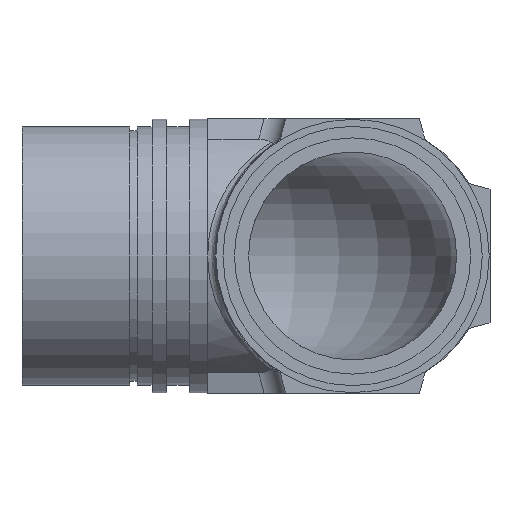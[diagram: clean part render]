
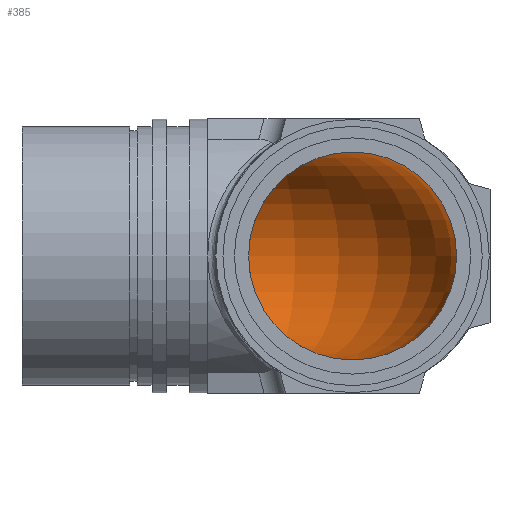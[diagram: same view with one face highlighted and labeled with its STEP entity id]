
A CAD part, left-side view. The second image highlights one B-rep face of the part: STEP entity #385.
In plain terms, the highlighted toroidal (fillet/blend) face has major radius 14 mm and minor radius 14 mm.
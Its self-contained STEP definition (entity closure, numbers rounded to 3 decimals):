
#15 = VERTEX_POINT ( 'NONE', #636 ) ;
#18 = VERTEX_POINT ( 'NONE', #673 ) ;
#25 = EDGE_CURVE ( 'NONE', #18, #44, #639, .T. ) ;
#43 = EDGE_CURVE ( 'NONE', #15, #18, #656, .T. ) ;
#44 = VERTEX_POINT ( 'NONE', #679 ) ;
#53 = VERTEX_POINT ( 'NONE', #674 ) ;
#69 = EDGE_CURVE ( 'NONE', #53, #15, #2044, .T. ) ;
#385 = ADVANCED_FACE ( 'NONE', ( #1397 ), #1393, .F. ) ;
#483 = VERTEX_POINT ( 'NONE', #1514 ) ;
#504 = ORIENTED_EDGE ( 'NONE', *, *, #43, .F. ) ;
#558 = EDGE_CURVE ( 'NONE', #578, #44, #1644, .T. ) ;
#572 = EDGE_CURVE ( 'NONE', #483, #578, #1694, .T. ) ;
#573 = ORIENTED_EDGE ( 'NONE', *, *, #572, .T. ) ;
#576 = ORIENTED_EDGE ( 'NONE', *, *, #69, .F. ) ;
#578 = VERTEX_POINT ( 'NONE', #1692 ) ;
#579 = EDGE_CURVE ( 'NONE', #53, #483, #1696, .T. ) ;
#604 = ORIENTED_EDGE ( 'NONE', *, *, #579, .T. ) ;
#618 = EDGE_LOOP ( 'NONE', ( #621, #504, #576, #604, #573, #619 ) ) ;
#619 = ORIENTED_EDGE ( 'NONE', *, *, #558, .T. ) ;
#621 = ORIENTED_EDGE ( 'NONE', *, *, #25, .F. ) ;
#630 = DIRECTION ( 'NONE',  ( 1., 0., 0. ) ) ;
#631 = CARTESIAN_POINT ( 'NONE',  ( -11.307, 4.641, 0. ) ) ;
#632 = AXIS2_PLACEMENT_3D ( 'NONE', #631, #630, #676 ) ;
#634 = CARTESIAN_POINT ( 'NONE',  ( -0.631, 6.672, -13.853 ) ) ;
#635 = CARTESIAN_POINT ( 'NONE',  ( -1.565, 6.332, -13.899 ) ) ;
#636 = CARTESIAN_POINT ( 'NONE',  ( -11.307, 4.641, 14. ) ) ;
#639 = B_SPLINE_CURVE_WITH_KNOTS ( 'NONE', 3,
 ( #667, #644, #643, #642, #648, #647, #646, #709, #708, #707, #635, #634, #654, #653 ),
 .UNSPECIFIED., .F., .F.,
 ( 4, 2, 2, 2, 2, 2, 4 ),
 ( 0., 0.001, 0.003, 0.006, 0.009, 0.01, 0.012 ),
 .UNSPECIFIED. ) ;
#642 = CARTESIAN_POINT ( 'NONE',  ( -9.314, 4.707, -14. ) ) ;
#643 = CARTESIAN_POINT ( 'NONE',  ( -10.31, 4.654, -14. ) ) ;
#644 = CARTESIAN_POINT ( 'NONE',  ( -10.808, 4.642, -14. ) ) ;
#646 = CARTESIAN_POINT ( 'NONE',  ( -6.346, 5.063, -13.995 ) ) ;
#647 = CARTESIAN_POINT ( 'NONE',  ( -7.33, 4.905, -13.998 ) ) ;
#648 = CARTESIAN_POINT ( 'NONE',  ( -8.817, 4.747, -14. ) ) ;
#653 = CARTESIAN_POINT ( 'NONE',  ( 0.291, 7.043, -13.792 ) ) ;
#654 = CARTESIAN_POINT ( 'NONE',  ( -0.167, 6.853, -13.825 ) ) ;
#656 = CIRCLE ( 'NONE', #632, 14. ) ;
#667 = CARTESIAN_POINT ( 'NONE',  ( -11.307, 4.641, -14. ) ) ;
#673 = CARTESIAN_POINT ( 'NONE',  ( -11.307, 4.641, -14. ) ) ;
#674 = CARTESIAN_POINT ( 'NONE',  ( 0.291, 7.043, 13.792 ) ) ;
#676 = DIRECTION ( 'NONE',  ( 0., 0., -1. ) ) ;
#679 = CARTESIAN_POINT ( 'NONE',  ( 0.291, 7.043, -13.792 ) ) ;
#707 = CARTESIAN_POINT ( 'NONE',  ( -2.034, 6.172, -13.917 ) ) ;
#708 = CARTESIAN_POINT ( 'NONE',  ( -3.451, 5.727, -13.961 ) ) ;
#709 = CARTESIAN_POINT ( 'NONE',  ( -4.408, 5.474, -13.977 ) ) ;
#1393 = TOROIDAL_SURFACE ( 'NONE', #1412, 14., 14. ) ;
#1397 = FACE_OUTER_BOUND ( 'NONE', #618, .T. ) ;
#1398 = CARTESIAN_POINT ( 'NONE',  ( -11.307, 18.641, 0. ) ) ;
#1412 = AXIS2_PLACEMENT_3D ( 'NONE', #1398, #1493, #1492 ) ;
#1492 = DIRECTION ( 'NONE',  ( -1., 0., 0. ) ) ;
#1493 = DIRECTION ( 'NONE',  ( 0., 0., -1. ) ) ;
#1514 = CARTESIAN_POINT ( 'NONE',  ( 2.693, 18.641, 14. ) ) ;
#1603 = CARTESIAN_POINT ( 'NONE',  ( 0.48, 7.5, -13.825 ) ) ;
#1604 = CARTESIAN_POINT ( 'NONE',  ( 0.661, 7.965, -13.853 ) ) ;
#1605 = CARTESIAN_POINT ( 'NONE',  ( 1.002, 8.898, -13.899 ) ) ;
#1606 = CARTESIAN_POINT ( 'NONE',  ( 1.161, 9.367, -13.917 ) ) ;
#1607 = CARTESIAN_POINT ( 'NONE',  ( 1.607, 10.785, -13.961 ) ) ;
#1620 = CARTESIAN_POINT ( 'NONE',  ( 1.86, 11.741, -13.977 ) ) ;
#1621 = CARTESIAN_POINT ( 'NONE',  ( 2.27, 13.679, -13.995 ) ) ;
#1622 = CARTESIAN_POINT ( 'NONE',  ( 2.428, 14.663, -13.998 ) ) ;
#1623 = CARTESIAN_POINT ( 'NONE',  ( 2.586, 16.15, -14. ) ) ;
#1624 = CARTESIAN_POINT ( 'NONE',  ( 2.626, 16.647, -14. ) ) ;
#1640 = CARTESIAN_POINT ( 'NONE',  ( 2.679, 17.643, -14. ) ) ;
#1641 = CARTESIAN_POINT ( 'NONE',  ( 2.691, 18.142, -14. ) ) ;
#1642 = CARTESIAN_POINT ( 'NONE',  ( 2.693, 18.641, -14. ) ) ;
#1644 = B_SPLINE_CURVE_WITH_KNOTS ( 'NONE', 3,
 ( #1642, #1641, #1640, #1624, #1623, #1622, #1621, #1620, #1607, #1606, #1605, #1604, #1603, #1652 ),
 .UNSPECIFIED., .F., .F.,
 ( 4, 2, 2, 2, 2, 2, 4 ),
 ( 0., 0.001, 0.003, 0.006, 0.009, 0.01, 0.012 ),
 .UNSPECIFIED. ) ;
#1652 = CARTESIAN_POINT ( 'NONE',  ( 0.291, 7.043, -13.792 ) ) ;
#1691 = CARTESIAN_POINT ( 'NONE',  ( 2.693, 18.641, 0. ) ) ;
#1692 = CARTESIAN_POINT ( 'NONE',  ( 2.693, 18.641, -14. ) ) ;
#1693 = AXIS2_PLACEMENT_3D ( 'NONE', #1691, #1768, #1767 ) ;
#1694 = CIRCLE ( 'NONE', #1693, 14. ) ;
#1695 = CARTESIAN_POINT ( 'NONE',  ( 0.291, 7.043, 13.792 ) ) ;
#1696 = B_SPLINE_CURVE_WITH_KNOTS ( 'NONE', 3,
 ( #1695, #1754, #1707, #1706, #1705, #1704, #1703, #1702, #1701, #1773, #1772, #1771 ),
 .UNSPECIFIED., .F., .F.,
 ( 4, 2, 2, 2, 2, 4 ),
 ( 0.066, 0.069, 0.072, 0.075, 0.076, 0.078 ),
 .UNSPECIFIED. ) ;
#1701 = CARTESIAN_POINT ( 'NONE',  ( 2.627, 16.653, 14. ) ) ;
#1702 = CARTESIAN_POINT ( 'NONE',  ( 2.587, 16.157, 14. ) ) ;
#1703 = CARTESIAN_POINT ( 'NONE',  ( 2.429, 14.673, 13.998 ) ) ;
#1704 = CARTESIAN_POINT ( 'NONE',  ( 2.272, 13.69, 13.995 ) ) ;
#1705 = CARTESIAN_POINT ( 'NONE',  ( 1.861, 11.746, 13.977 ) ) ;
#1706 = CARTESIAN_POINT ( 'NONE',  ( 1.606, 10.784, 13.961 ) ) ;
#1707 = CARTESIAN_POINT ( 'NONE',  ( 1.012, 8.891, 13.902 ) ) ;
#1754 = CARTESIAN_POINT ( 'NONE',  ( 0.669, 7.956, 13.858 ) ) ;
#1767 = DIRECTION ( 'NONE',  ( 0., 0., 1. ) ) ;
#1768 = DIRECTION ( 'NONE',  ( 0., 1., 0. ) ) ;
#1771 = CARTESIAN_POINT ( 'NONE',  ( 2.693, 18.641, 14. ) ) ;
#1772 = CARTESIAN_POINT ( 'NONE',  ( 2.691, 18.143, 14. ) ) ;
#1773 = CARTESIAN_POINT ( 'NONE',  ( 2.68, 17.646, 14. ) ) ;
#1976 = CARTESIAN_POINT ( 'NONE',  ( -8.823, 4.746, 14. ) ) ;
#2041 = CARTESIAN_POINT ( 'NONE',  ( -11.307, 4.641, 14. ) ) ;
#2042 = CARTESIAN_POINT ( 'NONE',  ( -10.81, 4.642, 14. ) ) ;
#2043 = CARTESIAN_POINT ( 'NONE',  ( 0.291, 7.043, 13.792 ) ) ;
#2044 = B_SPLINE_CURVE_WITH_KNOTS ( 'NONE', 3,
 ( #2043, #2051, #2050, #2049, #2048, #2047, #2054, #1976, #2053, #2052, #2042, #2041 ),
 .UNSPECIFIED., .F., .F.,
 ( 4, 2, 2, 2, 2, 4 ),
 ( 0.066, 0.069, 0.072, 0.075, 0.076, 0.078 ),
 .UNSPECIFIED. ) ;
#2047 = CARTESIAN_POINT ( 'NONE',  ( -6.357, 5.061, 13.995 ) ) ;
#2048 = CARTESIAN_POINT ( 'NONE',  ( -4.412, 5.473, 13.977 ) ) ;
#2049 = CARTESIAN_POINT ( 'NONE',  ( -3.45, 5.727, 13.961 ) ) ;
#2050 = CARTESIAN_POINT ( 'NONE',  ( -1.558, 6.322, 13.902 ) ) ;
#2051 = CARTESIAN_POINT ( 'NONE',  ( -0.623, 6.664, 13.858 ) ) ;
#2052 = CARTESIAN_POINT ( 'NONE',  ( -10.312, 4.654, 14. ) ) ;
#2053 = CARTESIAN_POINT ( 'NONE',  ( -9.319, 4.707, 14. ) ) ;
#2054 = CARTESIAN_POINT ( 'NONE',  ( -7.34, 4.904, 13.998 ) ) ;
